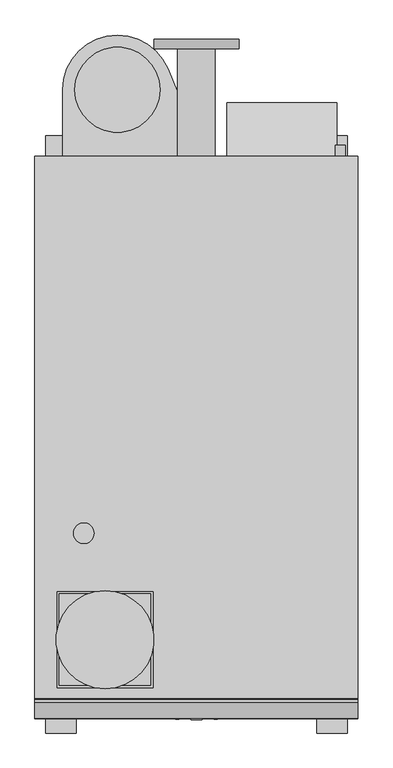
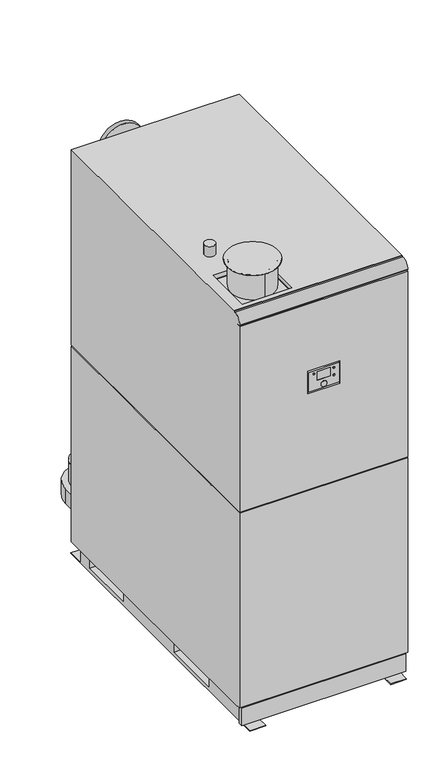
"""IFC4 building model written with IfcOpenShell, lengths in millimetres: unitary equipment geometry, AIC_Boiler_Nesta_Plus_280-840 : N 420 FS Chimney Type B."""

from ifc_helpers import new_model, si_unit, point, frame, frame_2d, origin, place, context, project, spatial, polyline, circle_curve, trimmed, segment, composite_curve, outline, extrude, faceted_brep, source, transform, mapped, element, save
from ifc_brep_helpers import plane_surface, cylinder_surface, advanced_brep


def unitary_equipment_e0a2042f(model_context):
    return source(origin(), model_context, "Body", "SolidModel", [
        extrude(outline(composite_curve([segment(trimmed(circle_curve(frame_2d((100.0, 277.0)), 13.35), [point((100.0, 290.35))], [point((100.0, 263.65))], False, "CARTESIAN"), True, "CONTINUOUS"), segment(trimmed(circle_curve(frame_2d((100.0, 277.0)), 13.35), [point((100.0, 263.65))], [point((100.0, 290.35))], False, "CARTESIAN"), True, "CONTINUOUS")], self_intersect=False)), frame((0.0, 91.0, 0.0), z_axis=(0.0, 1.0, 0.0), x_axis=(0.0, 0.0, 1.0)), (0.0, 0.0, 1.0), 24.0),
        faceted_brep([(330.0, 0.0, 80.0), (330.0, 126.0, 80.0), (330.0, 126.0, 81.0), (330.0, 1.0, 81.0), (330.0, 1.0, 140.0), (330.0, 126.0, 140.0), (330.0, 126.0, 242.0), (330.0, 0.0, 310.0), (72.0, 0.0, 80.0), (72.0, 0.0, 310.0), (72.0, 126.0, 242.0), (72.0, 126.0, 80.0), (248.0, 126.0, 140.0), (248.0, 126.0, 81.0), (297.0, 1.0, 140.0), (297.0, 1.0, 81.0), (297.0, 91.0, 81.0), (297.0, 91.0, 140.0), (248.0, 91.0, 81.0), (248.0, 91.0, 140.0)], [[[0, 1, 2, 3, 4, 5, 6, 7]], [[8, 9, 10, 11]], [[1, 0, 8, 11]], [[11, 10, 6, 5, 12, 13, 2, 1]], [[7, 6, 10, 9]], [[0, 7, 9, 8]], [[14, 4, 3, 15]], [[14, 15, 16, 17]], [[15, 3, 2, 13, 18, 16]], [[4, 14, 17, 19, 12, 5]], [[19, 17, 16, 18]], [[19, 18, 13, 12]]]),
        extrude(outline(composite_curve([segment(trimmed(circle_curve(frame_2d((1520.0, 0.0)), 13.0), [point((1520.0, -13.0))], [point((1520.0, 13.0))], False, "CARTESIAN"), True, "CONTINUOUS"), segment(trimmed(circle_curve(frame_2d((1520.0, 0.0)), 13.0), [point((1520.0, 13.0))], [point((1520.0, -13.0))], False, "CARTESIAN"), True, "CONTINUOUS")], self_intersect=False)), frame((0.0, -1323.0, 0.0), z_axis=(0.0, 1.0, 0.0), x_axis=(0.0, 0.0, 1.0)), (0.0, 0.0, 1.0), 3.0),
        extrude(outline(composite_curve([segment(trimmed(circle_curve(frame_2d((1581.0, -45.0)), 4.0), [point((1581.0, -49.0))], [point((1581.0, -41.0))], False, "CARTESIAN"), True, "CONTINUOUS"), segment(trimmed(circle_curve(frame_2d((1581.0, -45.0)), 4.0), [point((1581.0, -41.0))], [point((1581.0, -49.0))], False, "CARTESIAN"), True, "CONTINUOUS")], self_intersect=False)), frame((0.0, -1322.0, 0.0), z_axis=(0.0, 1.0, 0.0), x_axis=(0.0, 0.0, 1.0)), (0.0, 0.0, 1.0), 2.0),
        extrude(outline(composite_curve([segment(trimmed(circle_curve(frame_2d((1581.0, 45.0)), 4.0), [point((1581.0, 41.0))], [point((1581.0, 49.0))], False, "CARTESIAN"), True, "CONTINUOUS"), segment(trimmed(circle_curve(frame_2d((1581.0, 45.0)), 4.0), [point((1581.0, 49.0))], [point((1581.0, 41.0))], False, "CARTESIAN"), True, "CONTINUOUS")], self_intersect=False)), frame((0.0, -1322.0, 0.0), z_axis=(0.0, 1.0, 0.0), x_axis=(0.0, 0.0, 1.0)), (0.0, 0.0, 1.0), 2.0),
        extrude(outline(composite_curve([segment(trimmed(circle_curve(frame_2d((1546.0, 45.0)), 4.0), [point((1546.0, 41.0))], [point((1546.0, 49.0))], False, "CARTESIAN"), True, "CONTINUOUS"), segment(trimmed(circle_curve(frame_2d((1546.0, 45.0)), 4.0), [point((1546.0, 49.0))], [point((1546.0, 41.0))], False, "CARTESIAN"), True, "CONTINUOUS")], self_intersect=False)), frame((0.0, -1322.0, 0.0), z_axis=(0.0, 1.0, 0.0), x_axis=(0.0, 0.0, 1.0)), (0.0, 0.0, 1.0), 2.0),
        faceted_brep([(71.0, -1310.0, 1596.0), (71.0, -1310.0, 1502.0), (-71.0, -1310.0, 1502.0), (-71.0, -1310.0, 1596.0), (71.0, -1320.0, 1596.0), (-71.0, -1320.0, 1596.0), (-71.0, -1320.0, 1502.0), (71.0, -1320.0, 1502.0), (-30.0, -1320.0, 1585.0), (30.0, -1320.0, 1585.0), (30.0, -1320.0, 1545.0), (-30.0, -1320.0, 1545.0), (30.0, -1319.0, 1585.0), (-30.0, -1319.0, 1585.0), (-30.0, -1319.0, 1545.0), (30.0, -1319.0, 1545.0)], [[[0, 1, 2, 3]], [[4, 5, 6, 7], [8, 9, 10, 11]], [[0, 3, 5, 4]], [[3, 2, 6, 5]], [[2, 1, 7, 6]], [[1, 0, 4, 7]], [[12, 13, 14, 15]], [[13, 12, 9, 8]], [[14, 13, 8, 11]], [[15, 14, 11, 10]], [[12, 15, 10, 9]]]),
        extrude(outline(composite_curve([segment(trimmed(circle_curve(frame_2d((-265.0, -885.0)), 24.15), [point((-289.15, -885.0))], [point((-240.85, -885.0))], False, "CARTESIAN"), True, "CONTINUOUS"), segment(trimmed(circle_curve(frame_2d((-265.0, -885.0)), 24.15), [point((-240.85, -885.0))], [point((-289.15, -885.0))], False, "CARTESIAN"), True, "CONTINUOUS")], self_intersect=False)), frame((0.0, 0.0, 1970.0), z_axis=(0.0, 0.0, 1.0), x_axis=(1.0, 0.0, 0.0)), (0.0, 0.0, 1.0), 49.0),
        extrude(outline(composite_curve([segment(trimmed(circle_curve(frame_2d((1038.0, 338.0)), 11.6), [point((1038.0, 326.4))], [point((1038.0, 349.6))], False, "CARTESIAN"), True, "CONTINUOUS"), segment(trimmed(circle_curve(frame_2d((1038.0, 338.0)), 11.6), [point((1038.0, 349.6))], [point((1038.0, 326.4))], False, "CARTESIAN"), True, "CONTINUOUS")], self_intersect=False)), frame((0.0, 0.0, 0.0), z_axis=(0.0, 1.0, 0.0), x_axis=(0.0, 0.0, 1.0)), (0.0, 0.0, 1.0), 26.0),
        advanced_brep(
        [(-215.0, -1020.0, 2079.0), (-215.0, -1250.0, 2079.0), (-215.0, -1233.5, 2079.0), (-215.0, -1036.5, 2079.0), (-215.0, -1020.0, 2080.0), (-215.0, -1250.0, 2080.0), (-215.0, -1036.5, 1950.0), (-215.0, -1233.5, 1950.0)],
        [
            (0, 1, circle_curve(frame((-215.0, -1135.0, 2079.0), z_axis=(0.0, 0.0, -1.0), x_axis=(0.0, -1.0, 0.0)), 115.0)),
            (1, 0, circle_curve(frame((-215.0, -1135.0, 2079.0), z_axis=(0.0, 0.0, -1.0), x_axis=(0.0, -1.0, 0.0)), 115.0)),
            (2, 3, circle_curve(frame((-215.0, -1135.0, 2079.0), z_axis=(0.0, 0.0, 1.0), x_axis=(0.0, -1.0, 0.0)), 98.5)),
            (3, 2, circle_curve(frame((-215.0, -1135.0, 2079.0), z_axis=(0.0, 0.0, 1.0), x_axis=(0.0, -1.0, 0.0)), 98.5)),
            (4, 5, circle_curve(frame((-215.0, -1135.0, 2080.0), z_axis=(0.0, 0.0, 1.0), x_axis=(0.0, -1.0, 0.0)), 115.0)),
            (5, 4, circle_curve(frame((-215.0, -1135.0, 2080.0), z_axis=(0.0, 0.0, 1.0), x_axis=(0.0, -1.0, 0.0)), 115.0)),
            (0, 4),
            (5, 1),
            (6, 7, circle_curve(frame((-215.0, -1135.0, 1950.0), z_axis=(0.0, 0.0, -1.0), x_axis=(0.0, -1.0, 0.0)), 98.5)),
            (7, 6, circle_curve(frame((-215.0, -1135.0, 1950.0), z_axis=(0.0, 0.0, -1.0), x_axis=(0.0, -1.0, 0.0)), 98.5)),
            (6, 3),
            (2, 7),
        ],
        [
            plane_surface(frame((-215.0, -1250.0, 2079.0), z_axis=(0.0, 0.0, -1.0), x_axis=(-1.0, 0.0, 0.0))),
            plane_surface(frame((-215.0, -1250.0, 2080.0), z_axis=(0.0, 0.0, 1.0), x_axis=(1.0, 0.0, 0.0))),
            cylinder_surface(frame((-215.0, -1135.0, 2080.0), z_axis=(0.0, 0.0, -1.0), x_axis=(0.0, -1.0, 0.0)), 115.0),
            plane_surface(frame((-215.0, -1233.5, 1950.0), z_axis=(0.0, 0.0, -1.0), x_axis=(-1.0, 0.0, 0.0))),
            cylinder_surface(frame((-215.0, -1135.0, 2079.0), z_axis=(0.0, 0.0, -1.0), x_axis=(0.0, -1.0, 0.0)), 98.5),
        ],
        [
            (0, [[1, 2], [3, 4]]),
            (1, [[5, 6]]),
            (2, [[-1, 7, -6, 8]]),
            (2, [[-2, -8, -5, -7]]),
            (3, [[9, 10]]),
            (4, [[-9, 11, -3, 12]]),
            (4, [[-10, -12, -4, -11]]),
        ],
    ),
        extrude(outline(polyline([(-107.5, -1027.5), (-107.5, -1242.5), (-322.5, -1242.5), (-322.5, -1027.5), (-107.5, -1027.5)])), frame((0.0, 0.0, 1950.0), z_axis=(0.0, 0.0, 1.0), x_axis=(1.0, 0.0, 0.0)), (0.0, 0.0, 1.0), 1.0),
        advanced_brep(
        [(100.0, 253.0, 1706.0), (-100.0, 253.0, 1706.0), (44.0, 253.0, 1706.0), (-44.0, 253.0, 1706.0), (100.0, 275.0, 1706.0), (-100.0, 275.0, 1706.0), (-44.0, -10.0, 1706.0), (44.0, -10.0, 1706.0)],
        [
            (0, 1, circle_curve(frame((0.0, 253.0, 1706.0), z_axis=(0.0, -1.0, 0.0), x_axis=(-1.0, 0.0, 0.0)), 100.0)),
            (1, 0, circle_curve(frame((0.0, 253.0, 1706.0), z_axis=(0.0, -1.0, 0.0), x_axis=(-1.0, 0.0, 0.0)), 100.0)),
            (2, 3, circle_curve(frame((0.0, 253.0, 1706.0), z_axis=(0.0, 1.0, 0.0), x_axis=(1.0, 0.0, 0.0)), 44.0)),
            (3, 2, circle_curve(frame((0.0, 253.0, 1706.0), z_axis=(0.0, 1.0, 0.0), x_axis=(1.0, 0.0, 0.0)), 44.0)),
            (4, 5, circle_curve(frame((0.0, 275.0, 1706.0), z_axis=(0.0, 1.0, 0.0), x_axis=(-1.0, 0.0, 0.0)), 100.0)),
            (5, 4, circle_curve(frame((0.0, 275.0, 1706.0), z_axis=(0.0, 1.0, 0.0), x_axis=(-1.0, 0.0, 0.0)), 100.0)),
            (1, 5),
            (4, 0),
            (6, 7, circle_curve(frame((0.0, -10.0, 1706.0), z_axis=(0.0, -1.0, 0.0), x_axis=(1.0, 0.0, 0.0)), 44.0)),
            (7, 6, circle_curve(frame((0.0, -10.0, 1706.0), z_axis=(0.0, -1.0, 0.0), x_axis=(1.0, 0.0, 0.0)), 44.0)),
            (6, 3),
            (2, 7),
        ],
        [
            plane_surface(frame((-100.0, 253.0, 1706.0), z_axis=(0.0, -1.0, 0.0), x_axis=(0.0, 0.0, -1.0))),
            plane_surface(frame((-100.0, 275.0, 1706.0), z_axis=(0.0, 1.0, 0.0), x_axis=(0.0, 0.0, 1.0))),
            cylinder_surface(frame((0.0, 253.0, 1706.0), z_axis=(0.0, 1.0, 0.0), x_axis=(-1.0, 0.0, 0.0)), 100.0),
            plane_surface(frame((44.0, -10.0, 1706.0), z_axis=(0.0, -1.0, 0.0), x_axis=(0.0, 0.0, 1.0))),
            cylinder_surface(frame((0.0, 275.0, 1706.0), z_axis=(0.0, -1.0, 0.0), x_axis=(1.0, 0.0, 0.0)), 44.0),
        ],
        [
            (0, [[1, 2], [3, 4]]),
            (1, [[5, 6]]),
            (2, [[-2, 7, -5, 8]]),
            (2, [[-1, -8, -6, -7]]),
            (3, [[9, 10]]),
            (4, [[-9, 11, -3, 12]]),
            (4, [[-10, -12, -4, -11]]),
        ],
    ),
        advanced_brep(
        [(-44.0, 0.0, 335.0), (44.0, 0.0, 335.0), (100.0, 275.0, 335.0), (-100.0, 275.0, 335.0), (-44.0, 253.0, 335.0), (44.0, 253.0, 335.0), (100.0, 253.0, 335.0), (-100.0, 253.0, 335.0)],
        [
            (0, 1, circle_curve(frame((0.0, 0.0, 335.0), z_axis=(0.0, -1.0, 0.0), x_axis=(1.0, 0.0, 0.0)), 44.0)),
            (1, 0, circle_curve(frame((0.0, 0.0, 335.0), z_axis=(0.0, -1.0, 0.0), x_axis=(1.0, 0.0, 0.0)), 44.0)),
            (2, 3, circle_curve(frame((0.0, 275.0, 335.0), z_axis=(0.0, 1.0, 0.0), x_axis=(-1.0, 0.0, 0.0)), 100.0)),
            (3, 2, circle_curve(frame((0.0, 275.0, 335.0), z_axis=(0.0, 1.0, 0.0), x_axis=(-1.0, 0.0, 0.0)), 100.0)),
            (0, 4),
            (4, 5, circle_curve(frame((0.0, 253.0, 335.0), z_axis=(0.0, -1.0, 0.0), x_axis=(1.0, 0.0, 0.0)), 44.0)),
            (5, 1),
            (5, 4, circle_curve(frame((0.0, 253.0, 335.0), z_axis=(0.0, -1.0, 0.0), x_axis=(1.0, 0.0, 0.0)), 44.0)),
            (6, 7, circle_curve(frame((0.0, 253.0, 335.0), z_axis=(0.0, -1.0, 0.0), x_axis=(-1.0, 0.0, 0.0)), 100.0)),
            (7, 6, circle_curve(frame((0.0, 253.0, 335.0), z_axis=(0.0, -1.0, 0.0), x_axis=(-1.0, 0.0, 0.0)), 100.0)),
            (7, 3),
            (2, 6),
        ],
        [
            plane_surface(frame((44.0, 0.0, 335.0), z_axis=(0.0, -1.0, 0.0), x_axis=(0.0, 0.0, 1.0))),
            plane_surface(frame((44.0, 275.0, 335.0), z_axis=(0.0, 1.0, 0.0), x_axis=(0.0, 0.0, -1.0))),
            cylinder_surface(frame((0.0, 275.0, 335.0), z_axis=(0.0, -1.0, 0.0), x_axis=(1.0, 0.0, 0.0)), 44.0),
            plane_surface(frame((-100.0, 253.0, 335.0), z_axis=(0.0, -1.0, 0.0), x_axis=(0.0, 0.0, -1.0))),
            cylinder_surface(frame((0.0, 253.0, 335.0), z_axis=(0.0, 1.0, 0.0), x_axis=(-1.0, 0.0, 0.0)), 100.0),
        ],
        [
            (0, [[1, 2]]),
            (1, [[3, 4]]),
            (2, [[-1, 5, 6, 7]]),
            (2, [[-2, -7, 8, -5]]),
            (3, [[9, 10], [-6, -8]]),
            (4, [[-10, 11, -3, 12]]),
            (4, [[-9, -12, -4, -11]]),
        ],
    ),
        extrude(outline(composite_curve([segment(trimmed(circle_curve(frame_2d((-186.0, 157.0)), 100.0), [point((-86.0, 157.0))], [point((-286.0, 157.0))], False, "CARTESIAN"), True, "CONTINUOUS"), segment(trimmed(circle_curve(frame_2d((-186.0, 157.0)), 100.0), [point((-286.0, 157.0))], [point((-86.0, 157.0))], False, "CARTESIAN"), True, "CONTINUOUS")], self_intersect=False)), frame((0.0, 0.0, 228.0), z_axis=(0.0, 0.0, 1.0), x_axis=(1.0, 0.0, 0.0)), (0.0, 0.0, 1.0), 97.0),
        extrude(outline(composite_curve([segment(trimmed(circle_curve(frame_2d((-186.0, 157.0)), 128.4478761), [point((-314.4478761, 157.0))], [point((-67.3169163, 206.1241541))], False, "CARTESIAN"), True, "CONTINUOUS"), segment(polyline([(-67.3169163, 206.1241541), (18.0, 0.0), (-314.4478761, 0.0), (-314.4478761, 157.0)]), True, "CONTINUOUS")], self_intersect=False)), frame((0.0, 0.0, 157.0), z_axis=(0.0, 0.0, 1.0), x_axis=(1.0, 0.0, 0.0)), (0.0, 0.0, 1.0), 71.0),
        advanced_brep(
        [(380.0, 0.0, 1970.0), (-380.0, 0.0, 1970.0), (-380.0, -1272.0, 1970.0), (380.0, -1272.0, 1970.0), (-328.0, -1022.0, 1970.0), (-102.0, -1022.0, 1970.0), (-102.0, -1248.0, 1970.0), (-328.0, -1248.0, 1970.0), (-380.0, -1281.6616502, 1970.0), (380.0, -1281.6616502, 1970.0), (380.0, -1276.0, 1970.0), (-380.0, -1276.0, 1970.0), (36.0, -1300.0, 0.0), (-36.0, -1300.0, 0.0), (-36.0, -31.0, 0.0), (36.0, -31.0, 0.0), (-355.0, 49.0, 0.0), (-283.0, 49.0, 0.0), (-283.0, -1354.0, 0.0), (-355.0, -1354.0, 0.0), (283.0, 49.0, 0.0), (355.0, 49.0, 0.0), (355.0, -1354.0, 0.0), (283.0, -1354.0, 0.0), (380.0, 0.0, 1036.0), (380.0, -1272.0, 1968.0), (380.0, -1276.0, 1968.0), (380.0, -1320.0, 1931.6616502), (380.0, -1320.0, 1929.0), (380.0, -1300.0, 1929.0), (380.0, -1300.0, 1923.0), (380.0, -1320.0, 1923.0), (380.0, -1320.0, 1036.0), (380.0, 0.0, 1030.0), (380.0, -1320.0, 1030.0), (380.0, -1320.0, 100.0), (380.0, -1300.0, 100.0), (380.0, -1300.0, 95.0), (380.0, 0.0, 95.0), (371.0, 0.0, 1036.0), (371.0, 0.0, 1030.0), (-380.0, 0.0, 95.0), (-380.0, 0.0, 1030.0), (-371.0, 0.0, 1030.0), (-371.0, 0.0, 1036.0), (-380.0, 0.0, 1036.0), (-380.0, -1320.0, 1036.0), (-380.0, -1320.0, 1923.0), (-380.0, -1300.0, 1923.0), (-380.0, -1300.0, 1929.0), (-380.0, -1320.0, 1929.0), (-380.0, -1320.0, 1931.6616502), (-380.0, -1276.0, 1968.0), (-380.0, -1272.0, 1968.0), (-380.0, -1320.0, 1030.0), (-380.0, -1300.0, 95.0), (-380.0, -1300.0, 100.0), (-380.0, -1320.0, 100.0), (-73.0, -1320.0, 1603.0), (73.0, -1320.0, 1603.0), (73.0, -1320.0, 1495.0), (-73.0, -1320.0, 1495.0), (371.0, -1320.0, 12.0), (371.0, -1320.0, 95.0), (-371.0, -1320.0, 95.0), (-371.0, -1320.0, 12.0), (-371.0, -1300.0, 1036.0), (371.0, -1300.0, 1036.0), (371.0, -1300.0, 1030.0), (-371.0, -1300.0, 1030.0), (36.0, -1300.0, 12.0), (-36.0, -1300.0, 12.0), (-371.0, -1300.0, 95.0), (-355.0, -1300.0, 95.0), (-283.0, -1300.0, 95.0), (-36.0, -1300.0, 95.0), (36.0, -1300.0, 95.0), (283.0, -1300.0, 95.0), (355.0, -1300.0, 95.0), (371.0, -1300.0, 95.0), (-283.0, -1300.0, 12.0), (-355.0, -1300.0, 12.0), (-355.0, -1300.0, 3.0), (-283.0, -1300.0, 3.0), (355.0, -1300.0, 12.0), (283.0, -1300.0, 12.0), (283.0, -1300.0, 3.0), (355.0, -1300.0, 3.0), (371.0, -1300.0, 12.0), (-371.0, -1300.0, 12.0), (-36.0, -1300.0, 95.0), (-283.0, -1300.0, 95.0), (-283.0, -31.0, 95.0), (-355.0, -31.0, 95.0), (-355.0, -1300.0, 95.0), (355.0, -1300.0, 95.0), (355.0, -31.0, 95.0), (283.0, -31.0, 95.0), (283.0, -1300.0, 95.0), (36.0, -1300.0, 95.0), (36.0, -31.0, 95.0), (-36.0, -31.0, 95.0), (-355.0, -31.0, 3.0), (-355.0, 49.0, 3.0), (-355.0, -1354.0, 3.0), (-355.0, -762.0, 80.0), (-355.0, -1034.0, 80.0), (-355.0, -1034.0, 20.0), (-355.0, -762.0, 20.0), (-355.0, -100.0, 80.0), (-355.0, -362.0, 80.0), (-355.0, -362.0, 20.0), (-355.0, -100.0, 20.0), (355.0, -1354.0, 3.0), (355.0, 49.0, 3.0), (355.0, -31.0, 3.0), (355.0, -1034.0, 80.0), (355.0, -762.0, 80.0), (355.0, -762.0, 20.0), (355.0, -1034.0, 20.0), (355.0, -362.0, 80.0), (355.0, -100.0, 80.0), (355.0, -100.0, 20.0), (355.0, -362.0, 20.0), (-283.0, -1354.0, 3.0), (-283.0, 49.0, 3.0), (-283.0, -31.0, 3.0), (-283.0, -1034.0, 80.0), (-283.0, -762.0, 80.0), (-283.0, -762.0, 20.0), (-283.0, -1034.0, 20.0), (-283.0, -362.0, 80.0), (-283.0, -100.0, 80.0), (-283.0, -100.0, 20.0), (-283.0, -362.0, 20.0), (-36.0, -762.0, 80.0), (-36.0, -1034.0, 80.0), (-36.0, -1034.0, 20.0), (-36.0, -762.0, 20.0), (-36.0, -100.0, 80.0), (-36.0, -362.0, 80.0), (-36.0, -362.0, 20.0), (-36.0, -100.0, 20.0), (36.0, -1034.0, 80.0), (36.0, -762.0, 80.0), (36.0, -762.0, 20.0), (36.0, -1034.0, 20.0), (36.0, -362.0, 80.0), (36.0, -100.0, 80.0), (36.0, -100.0, 20.0), (36.0, -362.0, 20.0), (283.0, -31.0, 3.0), (283.0, 49.0, 3.0), (283.0, -1354.0, 3.0), (283.0, -762.0, 80.0), (283.0, -1034.0, 80.0), (283.0, -1034.0, 20.0), (283.0, -762.0, 20.0), (283.0, -100.0, 80.0), (283.0, -362.0, 80.0), (283.0, -362.0, 20.0), (283.0, -100.0, 20.0), (73.0, -1300.0, 1603.0), (-73.0, -1300.0, 1603.0), (-73.0, -1300.0, 1495.0), (73.0, -1300.0, 1495.0), (-102.0, -1022.0, 1950.0), (-328.0, -1022.0, 1950.0), (-328.0, -1248.0, 1950.0), (-102.0, -1248.0, 1950.0)],
        [
            (0, 1),
            (1, 2),
            (2, 3),
            (3, 0),
            (4, 5),
            (5, 6),
            (6, 7),
            (7, 4),
            (8, 9),
            (9, 10),
            (10, 11),
            (11, 8),
            (12, 13),
            (13, 14),
            (14, 15),
            (15, 12),
            (16, 17),
            (17, 18),
            (18, 19),
            (19, 16),
            (20, 21),
            (21, 22),
            (22, 23),
            (23, 20),
            (24, 0),
            (3, 25),
            (25, 26),
            (26, 10),
            (9, 27, circle_curve(frame((380.0, -1281.6616502, 1931.6616502), z_axis=(1.0, 0.0, 0.0), x_axis=(0.0, 1.0, 0.0)), 38.3383498)),
            (27, 28),
            (28, 29),
            (29, 30),
            (30, 31),
            (31, 32),
            (32, 24),
            (33, 34),
            (34, 35),
            (35, 36),
            (36, 37),
            (37, 38),
            (38, 33),
            (24, 39),
            (39, 40),
            (40, 33),
            (38, 41),
            (41, 42),
            (42, 43),
            (43, 44),
            (44, 45),
            (45, 1),
            (45, 46),
            (46, 47),
            (47, 48),
            (48, 49),
            (49, 50),
            (50, 51),
            (51, 8, circle_curve(frame((-380.0, -1281.6616502, 1931.6616502), z_axis=(-1.0, 0.0, 0.0), x_axis=(0.0, 1.0, 0.0)), 38.3383498)),
            (11, 52),
            (52, 53),
            (53, 2),
            (54, 42),
            (41, 55),
            (55, 56),
            (56, 57),
            (57, 54),
            (46, 32),
            (31, 47),
            (58, 59),
            (59, 60),
            (60, 61),
            (61, 58),
            (34, 54),
            (57, 35),
            (27, 51),
            (50, 28),
            (62, 63),
            (63, 64),
            (64, 65),
            (65, 62),
            (44, 66),
            (66, 67),
            (67, 39),
            (40, 68),
            (68, 69),
            (69, 43),
            (67, 68),
            (66, 69),
            (30, 48),
            (29, 49),
            (26, 52),
            (25, 53),
            (12, 70),
            (70, 71),
            (71, 13),
            (36, 56),
            (55, 72),
            (72, 73),
            (73, 74),
            (74, 75),
            (75, 76),
            (76, 77),
            (77, 78),
            (78, 79),
            (79, 37),
            (80, 81),
            (81, 82),
            (82, 83),
            (83, 80),
            (84, 85),
            (85, 86),
            (86, 87),
            (87, 84),
            (62, 88),
            (88, 79),
            (79, 63),
            (65, 89),
            (89, 81),
            (80, 71),
            (70, 85),
            (84, 88),
            (64, 72),
            (72, 89),
            (90, 91),
            (91, 92),
            (92, 93),
            (93, 94),
            (94, 72),
            (79, 95),
            (95, 96),
            (96, 97),
            (97, 98),
            (98, 99),
            (99, 100),
            (100, 101),
            (101, 90),
            (94, 81),
            (93, 102),
            (102, 103),
            (103, 16),
            (19, 104),
            (104, 82),
            (105, 106),
            (106, 107),
            (107, 108),
            (108, 105),
            (109, 110),
            (110, 111),
            (111, 112),
            (112, 109),
            (95, 84),
            (87, 113),
            (113, 22),
            (21, 114),
            (114, 115),
            (115, 96),
            (116, 117),
            (117, 118),
            (118, 119),
            (119, 116),
            (120, 121),
            (121, 122),
            (122, 123),
            (123, 120),
            (91, 80),
            (83, 124),
            (124, 18),
            (17, 125),
            (125, 126),
            (126, 92),
            (127, 128),
            (128, 129),
            (129, 130),
            (130, 127),
            (131, 132),
            (132, 133),
            (133, 134),
            (134, 131),
            (90, 71),
            (101, 14),
            (135, 136),
            (136, 137),
            (137, 138),
            (138, 135),
            (139, 140),
            (140, 141),
            (141, 142),
            (142, 139),
            (99, 70),
            (15, 100),
            (143, 144),
            (144, 145),
            (145, 146),
            (146, 143),
            (147, 148),
            (148, 149),
            (149, 150),
            (150, 147),
            (98, 85),
            (97, 151),
            (151, 152),
            (152, 20),
            (23, 153),
            (153, 86),
            (154, 155),
            (155, 156),
            (156, 157),
            (157, 154),
            (158, 159),
            (159, 160),
            (160, 161),
            (161, 158),
            (126, 102),
            (115, 151),
            (105, 128),
            (127, 106),
            (135, 144),
            (143, 136),
            (154, 117),
            (116, 155),
            (130, 107),
            (146, 137),
            (119, 156),
            (129, 108),
            (145, 138),
            (118, 157),
            (109, 132),
            (131, 110),
            (139, 148),
            (147, 140),
            (158, 121),
            (120, 159),
            (134, 111),
            (150, 141),
            (123, 160),
            (133, 112),
            (149, 142),
            (122, 161),
            (114, 152),
            (125, 103),
            (104, 124),
            (153, 113),
            (162, 163),
            (163, 164),
            (164, 165),
            (165, 162),
            (162, 59),
            (58, 163),
            (61, 164),
            (60, 165),
            (166, 167),
            (167, 168),
            (168, 169),
            (169, 166),
            (166, 5),
            (4, 167),
            (7, 168),
            (6, 169),
        ],
        [
            plane_surface(frame((380.0, -1320.0, 1970.0), z_axis=(0.0, 0.0, 1.0), x_axis=(0.0, 1.0, 0.0))),
            plane_surface(frame((380.0, -1320.0, 0.0), z_axis=(0.0, 0.0, -1.0), x_axis=(0.0, -1.0, 0.0))),
            plane_surface(frame((380.0, -1320.0, 1970.0), z_axis=(1.0, 0.0, 0.0), x_axis=(0.0, 0.0, -1.0))),
            plane_surface(frame((380.0, 0.0, 1970.0), z_axis=(0.0, 1.0, 0.0), x_axis=(0.0, 0.0, -1.0))),
            plane_surface(frame((-380.0, 0.0, 1970.0), z_axis=(-1.0, 0.0, 0.0), x_axis=(0.0, 0.0, -1.0))),
            plane_surface(frame((-380.0, -1320.0, 1970.0), z_axis=(0.0, -1.0, 0.0), x_axis=(0.0, 0.0, -1.0))),
            plane_surface(frame((-380.0, 0.0, 1036.0), z_axis=(0.0, 0.0, -1.0), x_axis=(-1.0, 0.0, 0.0))),
            plane_surface(frame((-380.0, 0.0, 1030.0), z_axis=(0.0, 0.0, 1.0), x_axis=(1.0, 0.0, 0.0))),
            plane_surface(frame((371.0, 0.0, 1036.0), z_axis=(1.0, 0.0, 0.0), x_axis=(0.0, 0.0, -1.0))),
            plane_surface(frame((371.0, -1300.0, 1036.0), z_axis=(0.0, -1.0, 0.0), x_axis=(0.0, 0.0, -1.0))),
            plane_surface(frame((-371.0, -1300.0, 1036.0), z_axis=(-1.0, 0.0, 0.0), x_axis=(0.0, 0.0, -1.0))),
            cylinder_surface(frame((-380.0, -1281.6616502, 1931.6616502), z_axis=(-1.0, 0.0, 0.0), x_axis=(0.0, 1.0, 0.0)), 38.3383498),
            plane_surface(frame((380.0, -1320.0, 1923.0), z_axis=(0.0, 0.0, 1.0), x_axis=(-1.0, 0.0, 0.0))),
            plane_surface(frame((380.0, -1300.0, 1923.0), z_axis=(0.0, -1.0, 0.0), x_axis=(-1.0, 0.0, 0.0))),
            plane_surface(frame((380.0, -1300.0, 1929.0), z_axis=(0.0, 0.0, -1.0), x_axis=(-1.0, 0.0, 0.0))),
            plane_surface(frame((380.0, -1276.0, 1970.0), z_axis=(0.0, 1.0, 0.0), x_axis=(-1.0, 0.0, 0.0))),
            plane_surface(frame((380.0, -1276.0, 1968.0), z_axis=(0.0, 0.0, 1.0), x_axis=(-1.0, 0.0, 0.0))),
            plane_surface(frame((380.0, -1272.0, 1968.0), z_axis=(0.0, -1.0, 0.0), x_axis=(-1.0, 0.0, 0.0))),
            plane_surface(frame((371.0, -1300.0, 95.0), z_axis=(0.0, -1.0, 0.0), x_axis=(0.0, 0.0, 1.0))),
            plane_surface(frame((371.0, -1320.0, 95.0), z_axis=(1.0, 0.0, 0.0), x_axis=(0.0, 1.0, 0.0))),
            plane_surface(frame((371.0, -1320.0, 12.0), z_axis=(0.0, 0.0, -1.0), x_axis=(0.0, 1.0, 0.0))),
            plane_surface(frame((-371.0, -1320.0, 12.0), z_axis=(-1.0, 0.0, 0.0), x_axis=(0.0, 1.0, 0.0))),
            plane_surface(frame((-371.0, -1320.0, 95.0), z_axis=(0.0, 0.0, 1.0), x_axis=(0.0, 1.0, 0.0))),
            plane_surface(frame((380.0, -1320.0, 100.0), z_axis=(0.0, 0.0, -1.0), x_axis=(0.0, 1.0, 0.0))),
            plane_surface(frame((-380.0, 0.0, 95.0), z_axis=(0.0, 0.0, -1.0), x_axis=(-1.0, 0.0, 0.0))),
            plane_surface(frame((-380.0, -1300.0, 95.0), z_axis=(0.0, 1.0, 0.0), x_axis=(0.0, 0.0, -1.0))),
            plane_surface(frame((-355.0, -1300.0, 95.0), z_axis=(-1.0, 0.0, 0.0), x_axis=(0.0, 0.0, -1.0))),
            plane_surface(frame((355.0, 0.0, 95.0), z_axis=(1.0, 0.0, 0.0), x_axis=(0.0, 0.0, -1.0))),
            plane_surface(frame((355.0, -1300.0, 95.0), z_axis=(0.0, 1.0, 0.0), x_axis=(0.0, 0.0, -1.0))),
            plane_surface(frame((-283.0, 0.0, 95.0), z_axis=(1.0, 0.0, 0.0), x_axis=(0.0, 0.0, -1.0))),
            plane_surface(frame((-283.0, -1300.0, 95.0), z_axis=(0.0, 1.0, 0.0), x_axis=(0.0, 0.0, -1.0))),
            plane_surface(frame((-36.0, -1300.0, 95.0), z_axis=(-1.0, 0.0, 0.0), x_axis=(0.0, 0.0, -1.0))),
            plane_surface(frame((36.0, 0.0, 95.0), z_axis=(1.0, 0.0, 0.0), x_axis=(0.0, 0.0, -1.0))),
            plane_surface(frame((36.0, -1300.0, 95.0), z_axis=(0.0, 1.0, 0.0), x_axis=(0.0, 0.0, -1.0))),
            plane_surface(frame((283.0, -1300.0, 95.0), z_axis=(-1.0, 0.0, 0.0), x_axis=(0.0, 0.0, -1.0))),
            plane_surface(frame((-380.0, -31.0, 95.0), z_axis=(0.0, 1.0, 0.0), x_axis=(0.0, 0.0, -1.0))),
            plane_surface(frame((355.0, -762.0, 80.0), z_axis=(0.0, 0.0, -1.0), x_axis=(-1.0, 0.0, 0.0))),
            plane_surface(frame((355.0, -1034.0, 80.0), z_axis=(0.0, 1.0, 0.0), x_axis=(-1.0, 0.0, 0.0))),
            plane_surface(frame((355.0, -1034.0, 20.0), z_axis=(0.0, 0.0, 1.0), x_axis=(-1.0, 0.0, 0.0))),
            plane_surface(frame((355.0, -762.0, 20.0), z_axis=(0.0, -1.0, 0.0), x_axis=(-1.0, 0.0, 0.0))),
            plane_surface(frame((355.0, -100.0, 80.0), z_axis=(0.0, 0.0, -1.0), x_axis=(-1.0, 0.0, 0.0))),
            plane_surface(frame((355.0, -362.0, 80.0), z_axis=(0.0, 1.0, 0.0), x_axis=(-1.0, 0.0, 0.0))),
            plane_surface(frame((355.0, -362.0, 20.0), z_axis=(0.0, 0.0, 1.0), x_axis=(-1.0, 0.0, 0.0))),
            plane_surface(frame((355.0, -100.0, 20.0), z_axis=(0.0, -1.0, 0.0), x_axis=(-1.0, 0.0, 0.0))),
            plane_surface(frame((-355.0, 49.0, 3.0), z_axis=(0.0, 0.0, 1.0), x_axis=(-1.0, 0.0, 0.0))),
            plane_surface(frame((-283.0, 49.0, 3.0), z_axis=(0.0, 1.0, 0.0), x_axis=(0.0, 0.0, -1.0))),
            plane_surface(frame((355.0, 49.0, 3.0), z_axis=(0.0, 1.0, 0.0), x_axis=(0.0, 0.0, -1.0))),
            plane_surface(frame((-355.0, -1354.0, 3.0), z_axis=(0.0, -1.0, 0.0), x_axis=(0.0, 0.0, -1.0))),
            plane_surface(frame((283.0, -1354.0, 3.0), z_axis=(0.0, -1.0, 0.0), x_axis=(0.0, 0.0, -1.0))),
            plane_surface(frame((-73.0, -1300.0, 1603.0), z_axis=(0.0, -1.0, 0.0), x_axis=(1.0, 0.0, 0.0))),
            plane_surface(frame((73.0, -1320.0, 1603.0), z_axis=(0.0, 0.0, -1.0), x_axis=(0.0, 1.0, 0.0))),
            plane_surface(frame((-73.0, -1320.0, 1603.0), z_axis=(1.0, 0.0, 0.0), x_axis=(0.0, 1.0, 0.0))),
            plane_surface(frame((-73.0, -1320.0, 1495.0), z_axis=(0.0, 0.0, 1.0), x_axis=(0.0, 1.0, 0.0))),
            plane_surface(frame((73.0, -1320.0, 1495.0), z_axis=(-1.0, 0.0, 0.0), x_axis=(0.0, 1.0, 0.0))),
            plane_surface(frame((-328.0, -1022.0, 1950.0), z_axis=(0.0, 0.0, 1.0), x_axis=(1.0, 0.0, 0.0))),
            plane_surface(frame((-102.0, -1022.0, 1970.0), z_axis=(0.0, -1.0, 0.0), x_axis=(0.0, 0.0, -1.0))),
            plane_surface(frame((-328.0, -1022.0, 1970.0), z_axis=(1.0, 0.0, 0.0), x_axis=(0.0, 0.0, -1.0))),
            plane_surface(frame((-328.0, -1248.0, 1970.0), z_axis=(0.0, 1.0, 0.0), x_axis=(0.0, 0.0, -1.0))),
            plane_surface(frame((-102.0, -1248.0, 1970.0), z_axis=(-1.0, 0.0, 0.0), x_axis=(0.0, 0.0, -1.0))),
        ],
        [
            (0, [[1, 2, 3, 4], [5, 6, 7, 8]]),
            (0, [[9, 10, 11, 12]]),
            (1, [[13, 14, 15, 16]]),
            (1, [[17, 18, 19, 20]]),
            (1, [[21, 22, 23, 24]]),
            (2, [[25, -4, 26, 27, 28, -10, 29, 30, 31, 32, 33, 34, 35]]),
            (2, [[36, 37, 38, 39, 40, 41]]),
            (3, [[-1, -25, 42, 43, 44, -41, 45, 46, 47, 48, 49, 50]]),
            (4, [[-50, 51, 52, 53, 54, 55, 56, 57, -12, 58, 59, 60, -2]]),
            (4, [[61, -46, 62, 63, 64, 65]]),
            (5, [[66, -34, 67, -52], [68, 69, 70, 71]]),
            (5, [[72, -65, 73, -37]]),
            (5, [[74, -56, 75, -30]]),
            (5, [[76, 77, 78, 79]]),
            (6, [[80, 81, 82, -42, -35, -66, -51, -49]]),
            (7, [[83, 84, 85, -47, -61, -72, -36, -44]]),
            (8, [[-82, 86, -83, -43]]),
            (9, [[-81, 87, -84, -86]]),
            (10, [[-80, -48, -85, -87]]),
            (11, [[-9, -57, -74, -29]]),
            (12, [[88, -53, -67, -33]]),
            (13, [[-88, -32, 89, -54]]),
            (14, [[-89, -31, -75, -55]]),
            (15, [[90, -58, -11, -28]]),
            (16, [[-90, -27, 91, -59]]),
            (17, [[-91, -26, -3, -60]]),
            (18, [[-13, 92, 93, 94]]),
            (18, [[95, -63, 96, 97, 98, 99, 100, 101, 102, 103, 104, -39]]),
            (18, [[105, 106, 107, 108]]),
            (18, [[109, 110, 111, 112]]),
            (19, [[113, 114, 115, -76]]),
            (20, [[-113, -79, 116, 117, -105, 118, -93, 119, -109, 120]]),
            (21, [[-116, -78, 121, 122]]),
            (22, [[-115, -103, -102, -101, -100, -99, -98, -97, -121, -77]]),
            (23, [[-95, -38, -73, -64]]),
            (24, [[123, 124, 125, 126, 127, -96, -62, -45, -40, -104, 128, 129, 130, 131, 132, 133, 134, 135]]),
            (25, [[136, -117, -122, -127]]),
            (26, [[-136, -126, 137, 138, 139, -20, 140, 141, -106], [142, 143, 144, 145], [146, 147, 148, 149]]),
            (27, [[150, -112, 151, 152, -22, 153, 154, 155, -129], [156, 157, 158, 159], [160, 161, 162, 163]]),
            (28, [[-128, -114, -120, -150]]),
            (29, [[164, -108, 165, 166, -18, 167, 168, 169, -124], [170, 171, 172, 173], [174, 175, 176, 177]]),
            (30, [[-123, 178, -118, -164]]),
            (31, [[-178, -135, 179, -14, -94], [180, 181, 182, 183], [184, 185, 186, 187]]),
            (32, [[188, -92, -16, 189, -133], [190, 191, 192, 193], [194, 195, 196, 197]]),
            (33, [[-132, 198, -119, -188]]),
            (34, [[-198, -131, 199, 200, 201, -24, 202, 203, -110], [204, 205, 206, 207], [208, 209, 210, 211]]),
            (35, [[-125, -169, 212, -137]]),
            (35, [[-130, -155, 213, -199]]),
            (35, [[-134, -189, -15, -179]]),
            (36, [[214, -170, 215, -142]]),
            (36, [[216, -190, 217, -180]]),
            (36, [[218, -156, 219, -204]]),
            (37, [[-215, -173, 220, -143]]),
            (37, [[-217, -193, 221, -181]]),
            (37, [[-219, -159, 222, -205]]),
            (38, [[-220, -172, 223, -144]]),
            (38, [[-221, -192, 224, -182]]),
            (38, [[-222, -158, 225, -206]]),
            (39, [[-214, -145, -223, -171]]),
            (39, [[-216, -183, -224, -191]]),
            (39, [[-218, -207, -225, -157]]),
            (40, [[226, -174, 227, -146]]),
            (40, [[228, -194, 229, -184]]),
            (40, [[230, -160, 231, -208]]),
            (41, [[-227, -177, 232, -147]]),
            (41, [[-229, -197, 233, -185]]),
            (41, [[-231, -163, 234, -209]]),
            (42, [[-232, -176, 235, -148]]),
            (42, [[-233, -196, 236, -186]]),
            (42, [[-234, -162, 237, -210]]),
            (43, [[-226, -149, -235, -175]]),
            (43, [[-228, -187, -236, -195]]),
            (43, [[-230, -211, -237, -161]]),
            (44, [[-200, -213, -154, 238]]),
            (44, [[239, -138, -212, -168]]),
            (44, [[240, -165, -107, -141]]),
            (44, [[241, -151, -111, -203]]),
            (45, [[-239, -167, -17, -139]]),
            (46, [[-238, -153, -21, -201]]),
            (47, [[-240, -140, -19, -166]]),
            (48, [[-241, -202, -23, -152]]),
            (49, [[242, 243, 244, 245]]),
            (50, [[-242, 246, -68, 247]]),
            (51, [[-243, -247, -71, 248]]),
            (52, [[-244, -248, -70, 249]]),
            (53, [[-245, -249, -69, -246]]),
            (54, [[250, 251, 252, 253]]),
            (55, [[-250, 254, -5, 255]]),
            (56, [[-251, -255, -8, 256]]),
            (57, [[-252, -256, -7, 257]]),
            (58, [[-253, -257, -6, -254]]),
        ],
    ),
    ])


if __name__ == "__main__":
    model = new_model("IFC4")
    model_context = context("Model", 3, world=origin())
    ifc_project = project(units=[si_unit("LENGTHUNIT", "METRE", prefix="MILLI")], contexts=[model_context])
    site = spatial("IfcSite", under=ifc_project)
    building = spatial("IfcBuilding", under=site)
    placement = place(None, origin())
    unitary_equipment_shape = unitary_equipment_e0a2042f(model_context)
    element("IfcUnitaryEquipment", 1, ObjectType="AIC_Boiler_Nesta_Plus_280-840 : N 420 FS Chimney Type B", at=placement, inside=building, context=model_context, shape_type="MappedRepresentation", body=[
        mapped(unitary_equipment_shape, transform((0.0, 0.0, 0.0), x_axis=(1.0, 0.0, 0.0), y_axis=(0.0, 1.0, 0.0), z_axis=(0.0, 0.0, 1.0))),
    ])
    save(model, "model.ifc")
